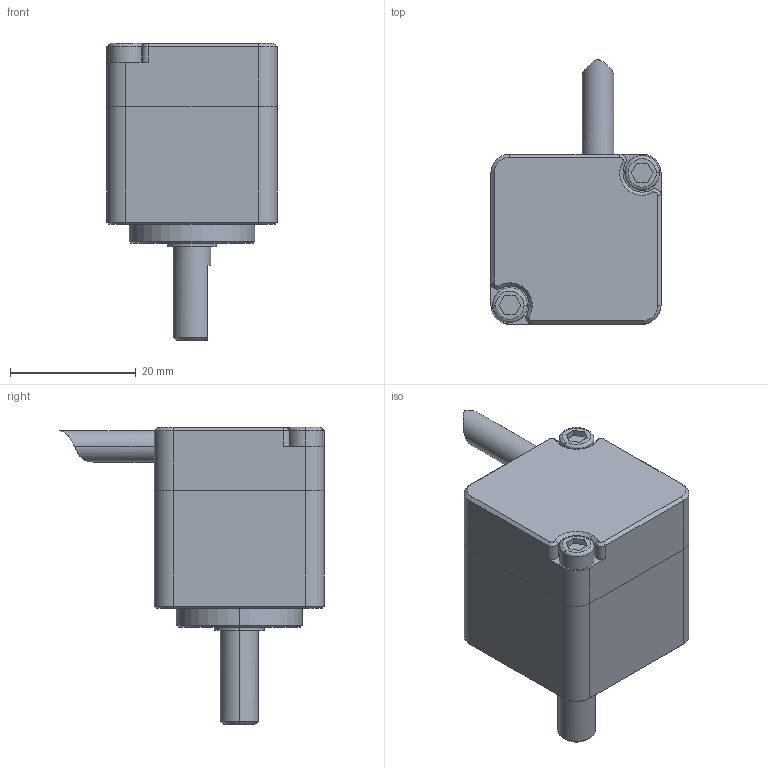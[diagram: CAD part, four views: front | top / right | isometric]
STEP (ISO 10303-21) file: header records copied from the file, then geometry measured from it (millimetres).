
FILE_DESCRIPTION(/* description */ (''),/* implementation_level */ '2;1');
FILE_NAME(/* name */ '03 编码器 IP68-BRT27-6mm轴_step.stp',/* time_stamp */ '2024-04-22T18:53:24+08:00',/* author */ (''),/* organization */ (''),/* preprocessor_version */ 'ST-DEVELOPER v16.7',/* originating_system */ 'SIEMENS PLM Software NX 12.0',/* authorisation */ '');
FILE_SCHEMA (('AP203_CONFIGURATION_CONTROLLED_3D_DESIGN_OF_MECHANICAL_PARTS_AND_ASSEMBLIES_MIM_LF { 1 0 10303 403 2 1 2}'));
Length unit declared in the file: millimetre
Products named in the file (1): Li Y5970CF99cbao
Bounding box: 27 x 42 x 47.2 mm (x, y, z)
Volume: 22116.9 mm3; surface area: 5330.7 mm2
Topology: 1 solids, 1 shells, 100 faces, 235 edges, 148 vertices
Faces by surface type: plane 41, cylinder 32, cone 22, torus 4, bspline 1
Full cylindrical faces by diameter (mm): 2.5 x4
Entity records: 2954 total; most frequent: CARTESIAN_POINT 560, DIRECTION 503, ORIENTED_EDGE 438, EDGE_CURVE 219, AXIS2_PLACEMENT_3D 188, VERTEX_POINT 140, LINE 127, VECTOR 127
